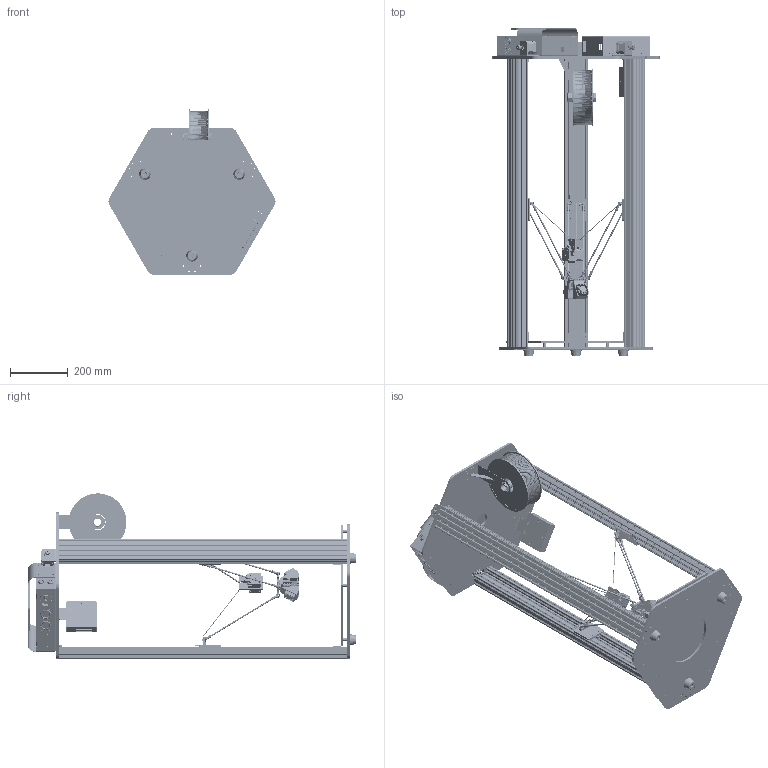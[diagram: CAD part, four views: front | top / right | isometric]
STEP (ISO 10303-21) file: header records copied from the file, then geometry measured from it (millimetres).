
FILE_DESCRIPTION (( 'STEP AP203' ), '1' );
FILE_NAME ('郔笝軞蚾.STEP', '2017-02-15T08:11:53', ( 'Sky123.Org' ), ( 'Sky123.Org' ), 'SwSTEP 2.0', 'SolidWorks 2016', '' );
FILE_SCHEMA (( 'CONFIG_CONTROL_DESIGN' ));
Length unit declared in the file: millimetre
Products named in the file (85): duolun 1; 郔笝軞蚾; 蟀裝; ventilator 120 -rotor; 蝓蟈酘; 5MM路燭翐赽; そ躉; 源輸; 絳謫縐釱; 9x5x3mm bearing; そ躉狟; v6撥堤芛; 赶桉; 120 Fangrill; 蝓蟈衵晚; ぇ陑蹟譫; 蹋; 脣釱羲壽_蕼偞; z粣韌韌啣; 粣; そ躉奻; u倛羞; 蟀裝蚾饜; 1210; 捚親薯; M5菜え; 蹋嘐隅; SSR; Delrin Mini V Wheel; 參嫁; 菁釱; そ躉碟赽; 虴茼ん欶赽; 虴茼ん; usb邧醱啣; Low Profile Screw M5_M5 x 25; Importée538; 參忒; Ball Bearing 5 x 10 x 4.2; Titan Extruder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
Assembly tree (145 placements, depth 5):
  郔笝軞蚾
    菁釱
    C-Beam 40x80x1000 Linear Rail  x3
    热床总装
      热床框架
      詢麟產薛
    55 lm  x12
    絳謫縐釱  x3
    蚾饜极3  x3
      z粣賑輸
        z粣韌韌啣
        Mini V Wheel_Straight  x4
          Delrin Mini V Wheel
          Ball Bearing 5 x 10 x 4.2
          Precision Shim 8 x 5 x 1
          Nylon Insert Lock Nut M5
          Aluminum Spacer 6mm
        5MM路燭翐赽  x2
        ぇ陑蹟譫  x2
        M5菜え  x4
        Low Profile Screw M5_M5 x 25  x4
      唑裂
      々湍嘐隅
    蟀裝蚾饜  x6
      蟀裝
      赶桉
    虴茼ん
    1
    mount bracket  x3
    45698 1  x4
    4545 1  x3
    duolun 1  x3
    v6撥堤芛
    u倛羞
    虴茼ん欶赽
    褐菜  x3
    嫖裝癹弇  x3
    階佪  x3
    蹋殤
    そ躉殤赽
    そ躉碟赽
      そ躉狟
      そ躉奻
    輛佪萇儂嘐隅
    Titan Extruder
      base
      cover
      guide tube
      filament gear
      9x5x3mm bearing  x2
      粣
      參嫁
    皮筋  x3
    蚾饜极2
      萇埭
      階啣
      菁啣
      源輸
      脣釱羲壽_蕼偞
      SSR
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Bounding box: 578.85 x 1136.2 x 573 mm (x, y, z)
Volume: 10586453.1 mm3; surface area: 5293374.3 mm2
Topology: 366 solids, 372 shells, 14718 faces, 38533 edges, 24976 vertices
Faces by surface type: cylinder 7629, plane 5243, bspline 1062, cone 425, torus 351, sphere 8
Entity records: 413056 total; most frequent: CARTESIAN_POINT 214999, ORIENTED_EDGE 42172, DIRECTION 35214, EDGE_CURVE 21088, VERTEX_POINT 13680, AXIS2_PLACEMENT_3D 12026, LINE 11162, VECTOR 11162
